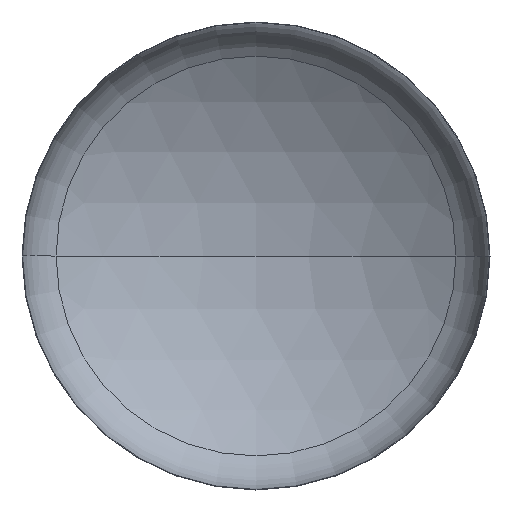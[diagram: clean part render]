
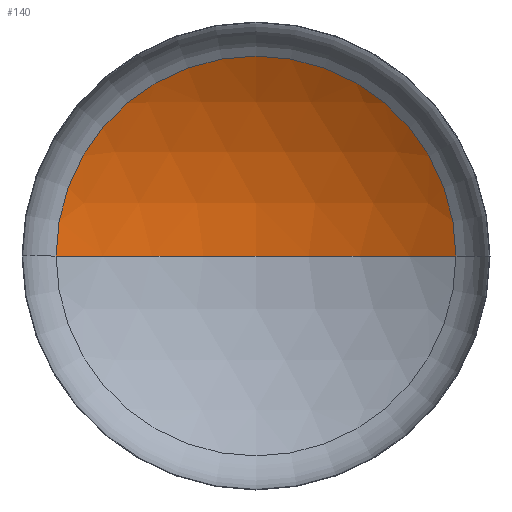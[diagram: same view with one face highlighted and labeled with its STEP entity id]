
A CAD part, front view. The second image highlights one B-rep face of the part: STEP entity #140.
In plain terms, the highlighted spherical face has radius 4000 mm.
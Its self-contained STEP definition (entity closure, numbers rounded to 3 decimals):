
#9 = EDGE_LOOP ( 'NONE', ( #93, #86, #63 ) ) ;
#14 = VERTEX_POINT ( 'NONE', #263 ) ;
#63 = ORIENTED_EDGE ( 'NONE', *, *, #259, .T. ) ;
#71 = VERTEX_POINT ( 'NONE', #260 ) ;
#86 = ORIENTED_EDGE ( 'NONE', *, *, #262, .T. ) ;
#91 = VERTEX_POINT ( 'NONE', #252 ) ;
#93 = ORIENTED_EDGE ( 'NONE', *, *, #264, .F. ) ;
#99 = CIRCLE ( 'NONE', #112, 4000. ) ;
#112 = AXIS2_PLACEMENT_3D ( 'NONE', #250, #247, #171 ) ;
#121 = AXIS2_PLACEMENT_3D ( 'NONE', #267, #293, #286 ) ;
#124 = AXIS2_PLACEMENT_3D ( 'NONE', #217, #208, #212 ) ;
#140 = ADVANCED_FACE ( 'NONE', ( #142 ), #290, .F. ) ;
#142 = FACE_OUTER_BOUND ( 'NONE', #9, .T. ) ;
#171 = DIRECTION ( 'NONE',  ( 1., 0., 0. ) ) ;
#191 = AXIS2_PLACEMENT_3D ( 'NONE', #335, #233, #331 ) ;
#208 = DIRECTION ( 'NONE',  ( 0., -1., 0. ) ) ;
#212 = DIRECTION ( 'NONE',  ( 1., 0., 0. ) ) ;
#217 = CARTESIAN_POINT ( 'NONE',  ( 0., 670.996, 0. ) ) ;
#233 = DIRECTION ( 'NONE',  ( 0., 0., -1. ) ) ;
#247 = DIRECTION ( 'NONE',  ( 0., 0., 1. ) ) ;
#250 = CARTESIAN_POINT ( 'NONE',  ( 0., -2710.801, 0. ) ) ;
#252 = CARTESIAN_POINT ( 'NONE',  ( -2136.223, 670.996, 0. ) ) ;
#259 = EDGE_CURVE ( 'NONE', #14, #91, #386, .T. ) ;
#260 = CARTESIAN_POINT ( 'NONE',  ( 0., 1289.199, 0. ) ) ;
#262 = EDGE_CURVE ( 'NONE', #71, #14, #271, .T. ) ;
#263 = CARTESIAN_POINT ( 'NONE',  ( 2136.223, 670.996, 0. ) ) ;
#264 = EDGE_CURVE ( 'NONE', #71, #91, #99, .T. ) ;
#267 = CARTESIAN_POINT ( 'NONE',  ( 0., -2710.801, 0. ) ) ;
#271 = CIRCLE ( 'NONE', #121, 4000. ) ;
#286 = DIRECTION ( 'NONE',  ( -1., 0., 0. ) ) ;
#290 = SPHERICAL_SURFACE ( 'NONE', #191, 4000. ) ;
#293 = DIRECTION ( 'NONE',  ( 0., 0., -1. ) ) ;
#331 = DIRECTION ( 'NONE',  ( -1., 0., 0. ) ) ;
#335 = CARTESIAN_POINT ( 'NONE',  ( 0., -2710.801, 0. ) ) ;
#386 = CIRCLE ( 'NONE', #124, 2136.223 ) ;
